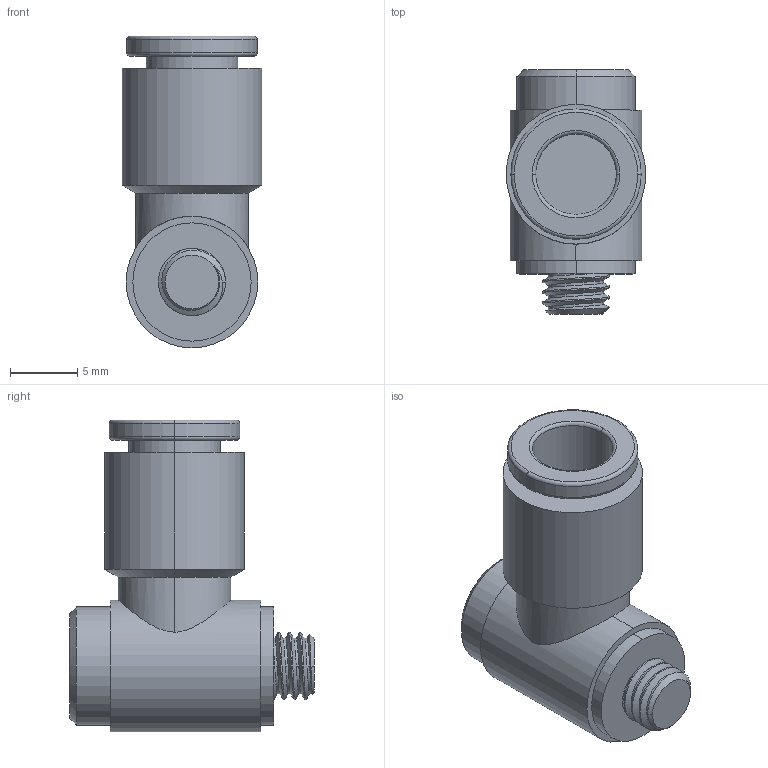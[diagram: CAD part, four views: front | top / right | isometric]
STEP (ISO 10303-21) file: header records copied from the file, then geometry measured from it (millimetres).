
FILE_DESCRIPTION (( 'STEP AP214' ), '1' );
FILE_NAME ('KQ2VS06-M5A.step.step', '2023-01-04T18:13:26', ( '' ), ( '' ), 'SwSTEP 2.0', 'SolidWorks 2022', '' );
FILE_SCHEMA (( 'AUTOMOTIVE_DESIGN' ));
Length unit declared in the file: millimetre
Products named in the file (4): KQ2VS06-M5A.step_STUD_VZC_M5; KQ2VS06-M5A.step_KQ2(V-VS-VD-VT-VF-Z-ZD-ZT-ZF)_VS06-M5; KQ2VS06-M5A.step_BUTTON_06; KQ2VS06-M5A.step
Assembly tree (3 placements, depth 2):
  KQ2VS06-M5A.step
    KQ2VS06-M5A.step_STUD_VZC_M5
    KQ2VS06-M5A.step_KQ2(V-VS-VD-VT-VF-Z-ZD-ZT-ZF)_VS06-M5
    KQ2VS06-M5A.step_BUTTON_06
Bounding box: 10.4 x 18.2 x 23.2 mm (x, y, z)
Volume: 1760 mm3; surface area: 2601.9 mm2
Topology: 3 solids, 3 shells, 66 faces, 155 edges, 99 vertices
Faces by surface type: cylinder 34, plane 17, cone 7, torus 6, bspline 2
Entity records: 2658 total; most frequent: CARTESIAN_POINT 1055, ORIENTED_EDGE 310, DIRECTION 308, EDGE_CURVE 155, AXIS2_PLACEMENT_3D 125, VERTEX_POINT 99, EDGE_LOOP 74, ADVANCED_FACE 66
